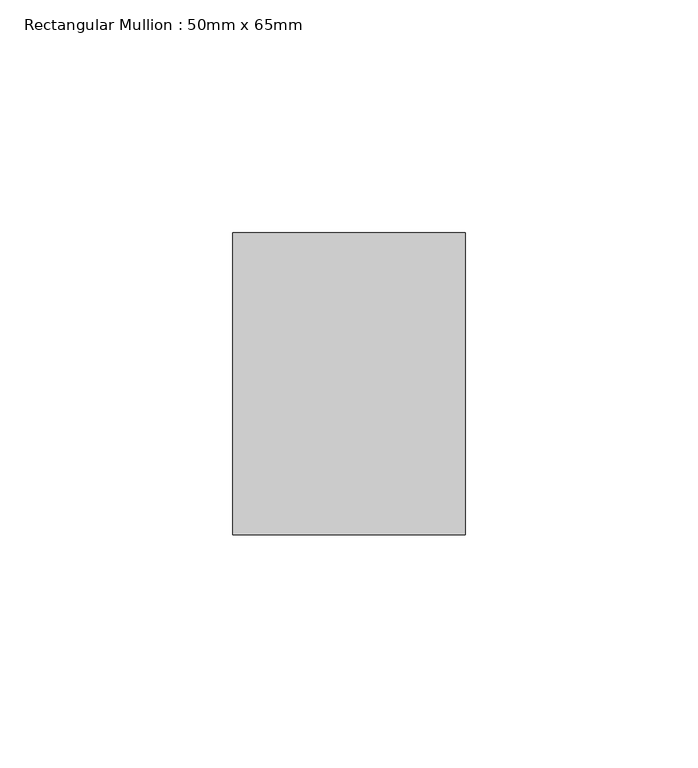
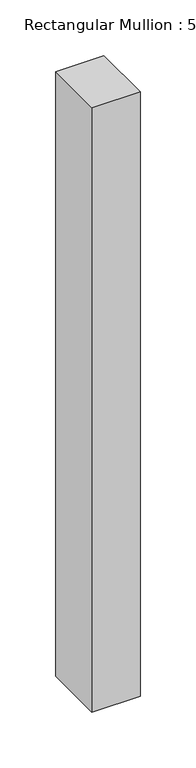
"""IFC4 building model written with IfcOpenShell, lengths in millimetres: member geometry, Rectangular Mullion : 50mm x 65mm."""

from ifc_helpers import new_model, si_unit, frame, origin, place, context, project, spatial, polyline, outline, extrude, source, transform, mapped, element, save


def rectangular_mullion_50mm_x_65mm_af7e1818(model_context):
    return source(origin(), model_context, "Body", "SweptSolid", [
        extrude(outline(polyline([(0.0, 32.5), (0.0, -32.5), (-50.0, -32.5), (-50.0, 32.5), (0.0, 32.5)])), frame((0.0, 0.0, -662.5), z_axis=(0.0, 0.0, 1.0), x_axis=(1.0, 0.0, 0.0)), (0.0, 0.0, 1.0), 662.5),
    ])


if __name__ == "__main__":
    model = new_model("IFC4")
    model_context = context("Model", 3, world=origin())
    ifc_project = project(units=[si_unit("LENGTHUNIT", "METRE", prefix="MILLI")], contexts=[model_context])
    site = spatial("IfcSite", under=ifc_project)
    building = spatial("IfcBuilding", under=site)
    placement = place(None, origin())
    rectangular_mullion_50mm_x_65mm_shape = rectangular_mullion_50mm_x_65mm_af7e1818(model_context)
    element("IfcMember", 1, ObjectType="Rectangular Mullion : 50mm x 65mm", at=placement, inside=building, context=model_context, shape_type="MappedRepresentation", body=[
        mapped(rectangular_mullion_50mm_x_65mm_shape, transform((0.0, 0.0, 0.0), x_axis=(1.0, 0.0, 0.0), y_axis=(0.0, 1.0, 0.0), z_axis=(0.0, 0.0, 1.0))),
    ])
    save(model, "model.ifc")
